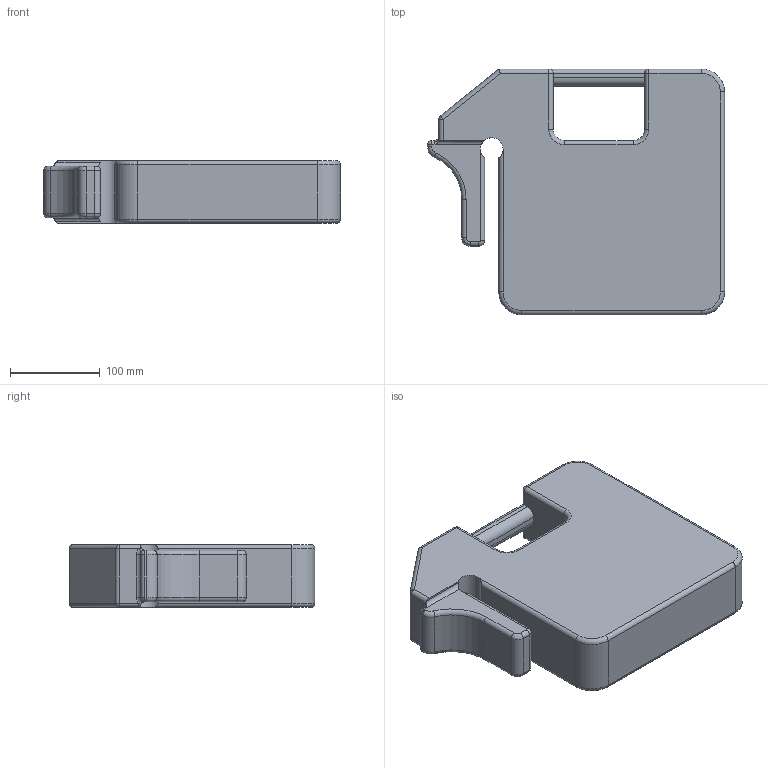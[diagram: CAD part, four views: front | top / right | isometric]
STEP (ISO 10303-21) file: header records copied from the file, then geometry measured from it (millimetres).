
FILE_DESCRIPTION((''),'2;1');
FILE_NAME('72LB','2018-01-05T',('clintfon'),(''),'CREO PARAMETRIC BY PTC INC, 2016130','CREO PARAMETRIC BY PTC INC, 2016130','');
FILE_SCHEMA(('CONFIG_CONTROL_DESIGN'));
Length unit declared in the file: inch
Products named in the file (1): 72LB
Bounding box: 330.2 x 273.05 x 69.85 mm (x, y, z)
Volume: 4691680.5 mm3; surface area: 237132 mm2
Topology: 1 solids, 1 shells, 104 faces, 245 edges, 141 vertices
Faces by surface type: cylinder 52, plane 23, torus 17, sphere 7, bspline 5
Entity records: 3463 total; most frequent: CARTESIAN_POINT 1029, DIRECTION 531, ORIENTED_EDGE 490, EDGE_CURVE 245, AXIS2_PLACEMENT_3D 208, VERTEX_POINT 141, VECTOR 115, LINE 115
